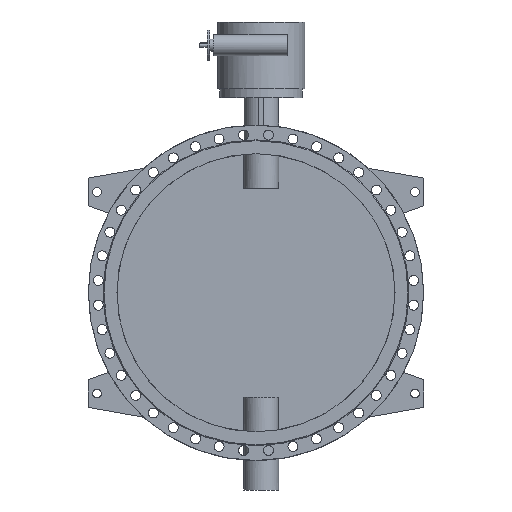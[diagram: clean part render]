
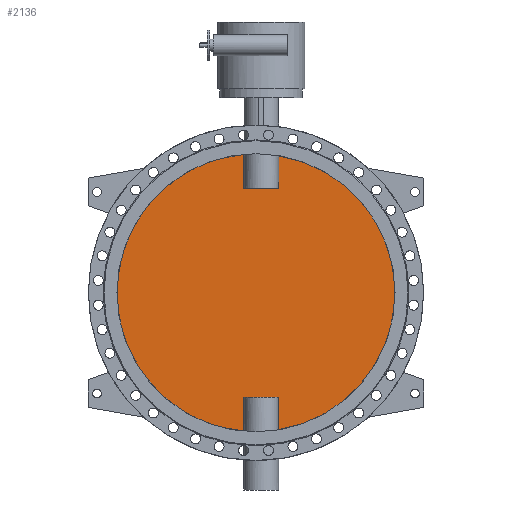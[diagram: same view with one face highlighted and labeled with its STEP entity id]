
A CAD part, front view. The second image highlights one B-rep face of the part: STEP entity #2136.
In plain terms, the highlighted planar face has unit normal (0, -1, 0).
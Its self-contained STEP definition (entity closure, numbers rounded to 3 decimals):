
#2136=ADVANCED_FACE('',(#4548),#4550,.F.);
#4548=FACE_BOUND('',#4549,.T.);
#4549=EDGE_LOOP('',(#5634,#5635,#5636,#5637,#5638,#5639,#5640,#5641));
#4550=PLANE('',#4551);
#4551=AXIS2_PLACEMENT_3D('',#4552,#4553,#4554);
#4552=CARTESIAN_POINT('',(0.,-5.,0.));
#4553=DIRECTION('',(0.,1.,0.));
#4554=DIRECTION('',(1.,0.,0.));
#5634=ORIENTED_EDGE('',*,*,#6177,.T.);
#5635=ORIENTED_EDGE('',*,*,#6183,.T.);
#5636=ORIENTED_EDGE('',*,*,#6184,.T.);
#5637=ORIENTED_EDGE('',*,*,#6185,.T.);
#5638=ORIENTED_EDGE('',*,*,#6179,.T.);
#5639=ORIENTED_EDGE('',*,*,#6186,.T.);
#5640=ORIENTED_EDGE('',*,*,#6187,.T.);
#5641=ORIENTED_EDGE('',*,*,#6188,.T.);
#6177=EDGE_CURVE('',#7097,#7098,#7099,.F.);
#6179=EDGE_CURVE('',#7102,#7100,#7103,.F.);
#6183=EDGE_CURVE('',#7098,#7109,#7110,.T.);
#6184=EDGE_CURVE('',#7109,#7111,#7112,.F.);
#6185=EDGE_CURVE('',#7111,#7102,#7113,.F.);
#6186=EDGE_CURVE('',#7100,#7114,#7115,.F.);
#6187=EDGE_CURVE('',#7114,#7116,#7117,.F.);
#6188=EDGE_CURVE('',#7116,#7097,#7118,.T.);
#7097=VERTEX_POINT('',#10104);
#7098=VERTEX_POINT('',#10105);
#7099=CIRCLE('',#10106,800.);
#7100=VERTEX_POINT('',#10110);
#7102=VERTEX_POINT('',#10210);
#7103=CIRCLE('',#10211,800.);
#7109=VERTEX_POINT('',#10315);
#7110=LINE('',#10316,#10317);
#7111=VERTEX_POINT('',#10319);
#7112=LINE('',#10320,#10321);
#7113=LINE('',#10323,#10324);
#7114=VERTEX_POINT('',#10326);
#7115=LINE('',#10327,#10328);
#7116=VERTEX_POINT('',#10330);
#7117=LINE('',#10331,#10332);
#7118=LINE('',#10334,#10335);
#10104=CARTESIAN_POINT('',(129.875,-5.,-789.387));
#10105=CARTESIAN_POINT('',(129.875,-5.,789.387));
#10106=AXIS2_PLACEMENT_3D('',#10107,#10108,#10109);
#10107=CARTESIAN_POINT('',(0.,-5.,0.));
#10108=DIRECTION('',(0.,1.,0.));
#10109=DIRECTION('',(0.162,0.,0.987));
#10110=CARTESIAN_POINT('',(-69.875,-5.,-796.943));
#10210=CARTESIAN_POINT('',(-69.875,-5.,796.943));
#10211=AXIS2_PLACEMENT_3D('',#10212,#10213,#10214);
#10212=CARTESIAN_POINT('',(0.,-5.,0.));
#10213=DIRECTION('',(0.,1.,0.));
#10214=DIRECTION('',(-0.087,0.,-0.996));
#10315=CARTESIAN_POINT('',(129.875,-5.,600.));
#10316=CARTESIAN_POINT('',(129.875,-5.,789.387));
#10317=VECTOR('',#10318,1.);
#10318=DIRECTION('',(0.,0.,-1.));
#10319=CARTESIAN_POINT('',(-69.875,-5.,600.));
#10320=CARTESIAN_POINT('',(-69.875,-5.,600.));
#10321=VECTOR('',#10322,1.);
#10322=DIRECTION('',(1.,0.,0.));
#10323=CARTESIAN_POINT('',(-69.875,-5.,796.943));
#10324=VECTOR('',#10325,1.);
#10325=DIRECTION('',(0.,0.,-1.));
#10326=CARTESIAN_POINT('',(-69.875,-5.,-600.));
#10327=CARTESIAN_POINT('',(-69.875,-5.,-600.));
#10328=VECTOR('',#10329,1.);
#10329=DIRECTION('',(0.,0.,-1.));
#10330=CARTESIAN_POINT('',(129.875,-5.,-600.));
#10331=CARTESIAN_POINT('',(129.875,-5.,-600.));
#10332=VECTOR('',#10333,1.);
#10333=DIRECTION('',(-1.,0.,0.));
#10334=CARTESIAN_POINT('',(129.875,-5.,-600.));
#10335=VECTOR('',#10336,1.);
#10336=DIRECTION('',(0.,0.,-1.));
